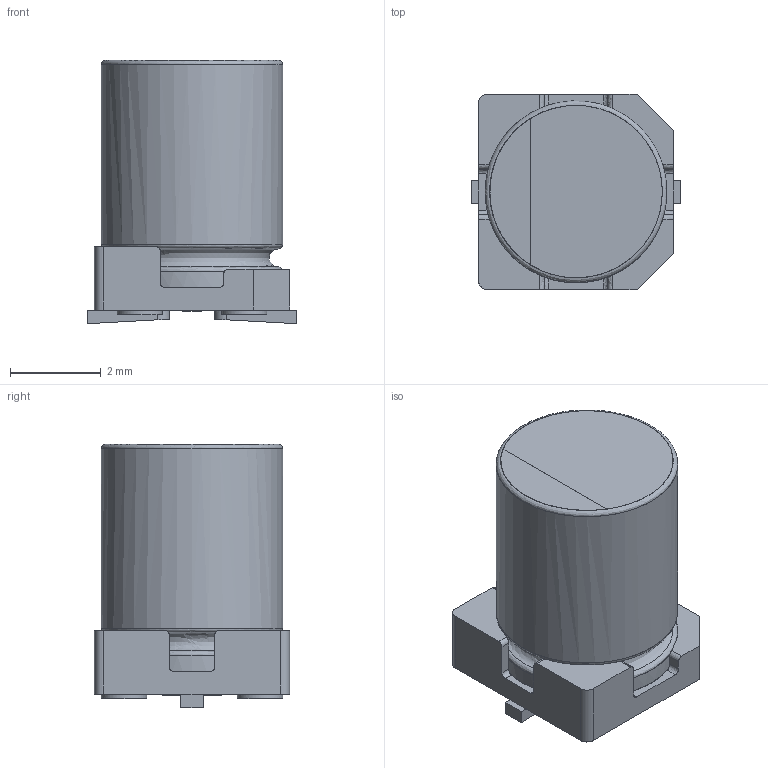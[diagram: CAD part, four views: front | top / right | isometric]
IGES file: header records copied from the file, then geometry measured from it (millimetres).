
Start section: JAMA-IS VERSION  1.0
Bounding box: 4.6 x 4.3 x 5.8 mm (x, y, z)
Surface area: 159.4 mm2 (no closed solid volume)
Topology: 0 solids, 0 shells, 81 faces, 922 edges, 904 vertices
Faces by surface type: bspline 81
